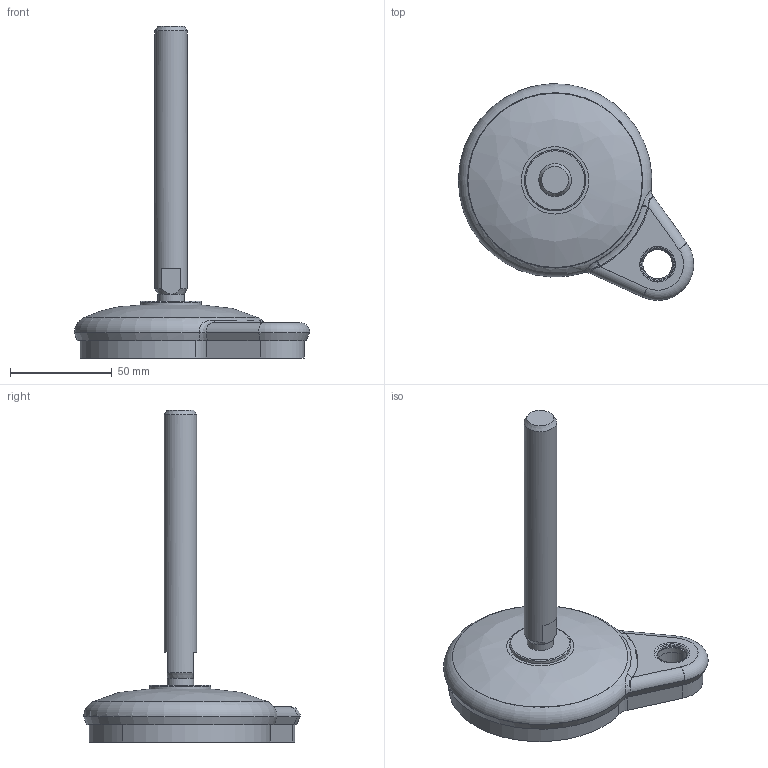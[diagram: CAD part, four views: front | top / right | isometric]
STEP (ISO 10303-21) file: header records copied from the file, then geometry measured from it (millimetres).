
FILE_DESCRIPTION(/* description */ ('STEP AP214'),/* implementation_level */ '2;1');
FILE_NAME(/* name */ 'C:\Users\Stefan.Nesic\Desktop\01010STEP\000Verifica\CORRETTI\P095ICM16X164.stp',/* time_stamp */ '2022-07-12T11:11:53+02:00',/* author */ ('stefan.nesic'),/* organization */ (' '),/* preprocessor_version */ 'ST-DEVELOPER v18.1',/* originating_system */ 'Autodesk Inventor 2021',/* authorisation */ ' ');
FILE_SCHEMA (('CONFIG_CONTROL_DESIGN'));
Length unit declared in the file: millimetre
Products named in the file (3): P095ICM16X164; Disegno1; 3202
Assembly tree (2 placements, depth 2):
  P095ICM16X164
    Disegno1
    3202
Bounding box: 115.49 x 106.33 x 162.96 mm (x, y, z)
Volume: 194718.7 mm3; surface area: 55407.4 mm2
Topology: 4 solids, 4 shells, 128 faces, 280 edges, 183 vertices
Faces by surface type: plane 44, cylinder 35, torus 20, bspline 19, cone 10
Full cylindrical faces by diameter (mm): 9.6 x2, 10 x1, 10.3 x3, 11 x1, 11.838 x1, 13 x1, 14.5 x3, 15.5 x1, 16 x2, 24.98 x1, 26.5 x2, 27.5 x1, 29 x1, 30 x1, 34.5 x1, 40.03 x1, 49.56 x1, 55.09 x1, 64.62 x1, 70.15 x1, 79.73 x1
Entity records: 5637 total; most frequent: CARTESIAN_POINT 2654, DIRECTION 633, ORIENTED_EDGE 560, AXIS2_PLACEMENT_3D 281, EDGE_CURVE 280, VERTEX_POINT 183, CIRCLE 163, EDGE_LOOP 159
